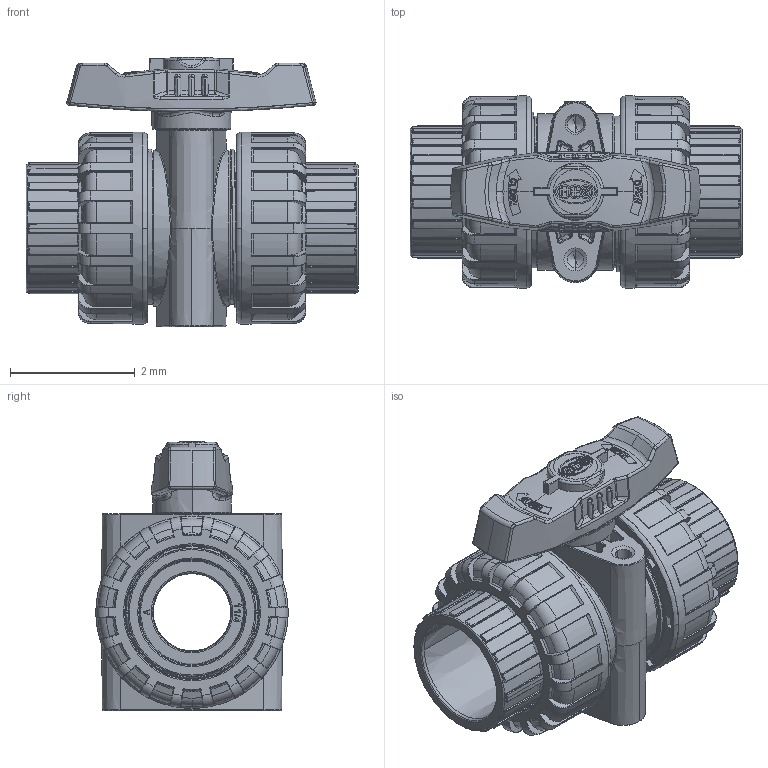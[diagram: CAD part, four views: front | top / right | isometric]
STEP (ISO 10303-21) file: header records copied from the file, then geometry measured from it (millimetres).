
FILE_DESCRIPTION(('Open CASCADE Model'),'2;1');
FILE_NAME('Open CASCADE Shape Model','2022-07-14T13:41:16',('Author'),( 'Open CASCADE'),'Open CASCADE STEP processor 7.3','Open CASCADE 7.3' ,'Unknown');
FILE_SCHEMA(('AUTOMOTIVE_DESIGN { 1 0 10303 214 1 1 1 1 }'));
Length unit declared in the file: millimetre
Products named in the file (20): Open CASCADE STEP translator 7.3 1; Open CASCADE STEP translator 7.3 1.1; Open CASCADE STEP translator 7.3 1.2; Open CASCADE STEP translator 7.3 1.3; Open CASCADE STEP translator 7.3 1.4; Open CASCADE STEP translator 7.3 1.5; Open CASCADE STEP translator 7.3 1.6; Open CASCADE STEP translator 7.3 1.7; Open CASCADE STEP translator 7.3 1.8; Open CASCADE STEP translator 7.3 1.9; Open CASCADE STEP translator 7.3 1.10; Open CASCADE STEP translator 7.3 1.11; Open CASCADE STEP translator 7.3 1.12; Open CASCADE STEP translator 7.3 1.13; Open CASCADE STEP translator 7.3 1.14; Open CASCADE STEP translator 7.3 1.15; Open CASCADE STEP translator 7.3 1.16; Open CASCADE STEP translator 7.3 1.17; Open CASCADE STEP translator 7.3 1.18; Open CASCADE STEP translator 7.3 1.19
Assembly tree (19 placements, depth 2):
  Open CASCADE STEP translator 7.3 1
    Open CASCADE STEP translator 7.3 1.1
    Open CASCADE STEP translator 7.3 1.2
    Open CASCADE STEP translator 7.3 1.3
    Open CASCADE STEP translator 7.3 1.4
    Open CASCADE STEP translator 7.3 1.5
    Open CASCADE STEP translator 7.3 1.6
    Open CASCADE STEP translator 7.3 1.7
    Open CASCADE STEP translator 7.3 1.8
    Open CASCADE STEP translator 7.3 1.9
    Open CASCADE STEP translator 7.3 1.10
    Open CASCADE STEP translator 7.3 1.11
    Open CASCADE STEP translator 7.3 1.12
    Open CASCADE STEP translator 7.3 1.13
    Open CASCADE STEP translator 7.3 1.14
    Open CASCADE STEP translator 7.3 1.15
    Open CASCADE STEP translator 7.3 1.16
    Open CASCADE STEP translator 7.3 1.17
    Open CASCADE STEP translator 7.3 1.18
    Open CASCADE STEP translator 7.3 1.19
Bounding box: 5.32 x 3.08 x 4.31 mm (x, y, z)
Volume: 22.4 mm3; surface area: 256.7 mm2
Topology: 19 solids, 19 shells, 2784 faces, 7062 edges, 4329 vertices
Faces by surface type: plane 713, bspline 653, cylinder 434, cone 410, torus 408, sphere 130, revolution 36
Entity records: 342148 total; most frequent: CARTESIAN_POINT 220212, DIRECTION 17171, ORIENTED_EDGE 13926, PCURVE 13926, DEFINITIONAL_REPRESENTATION 13926, B_SPLINE_CURVE_WITH_KNOTS 9830, LINE 7689, VECTOR 7689
